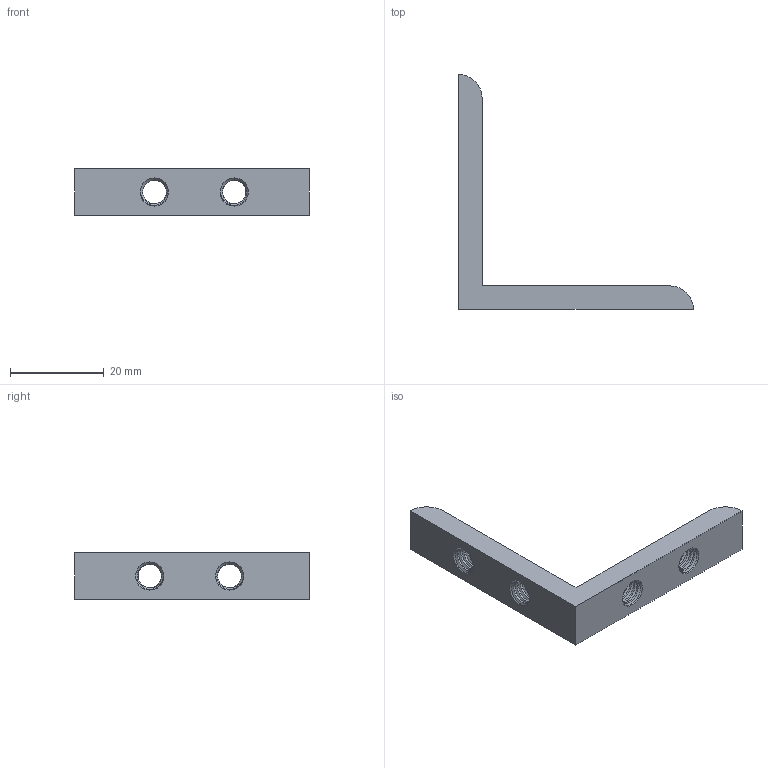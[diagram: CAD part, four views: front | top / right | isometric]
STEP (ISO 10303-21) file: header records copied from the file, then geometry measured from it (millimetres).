
FILE_DESCRIPTION (( 'STEP AP203' ), '1' );
FILE_NAME ('81-CE-IG1530-6.STEP', '2015-07-09T08:29:30', ( '' ), ( '' ), 'SwSTEP 2.0', 'SolidWorks 2013', '' );
FILE_SCHEMA (( 'CONFIG_CONTROL_DESIGN' ));
Length unit declared in the file: millimetre
Products named in the file (1): 81-CE-IG1530-6
Bounding box: 50 x 50 x 10 mm (x, y, z)
Volume: 4192.9 mm3; surface area: 3195.2 mm2
Topology: 1 solids, 1 shells, 80 faces, 216 edges, 138 vertices
Faces by surface type: cylinder 42, cone 24, bspline 8, plane 6
Entity records: 7171 total; most frequent: CARTESIAN_POINT 5356, ORIENTED_EDGE 432, DIRECTION 298, EDGE_CURVE 216, VERTEX_POINT 138, AXIS2_PLACEMENT_3D 116, EDGE_LOOP 88, FACE_OUTER_BOUND 80
